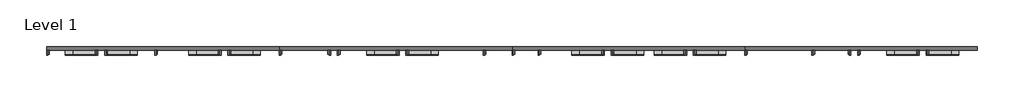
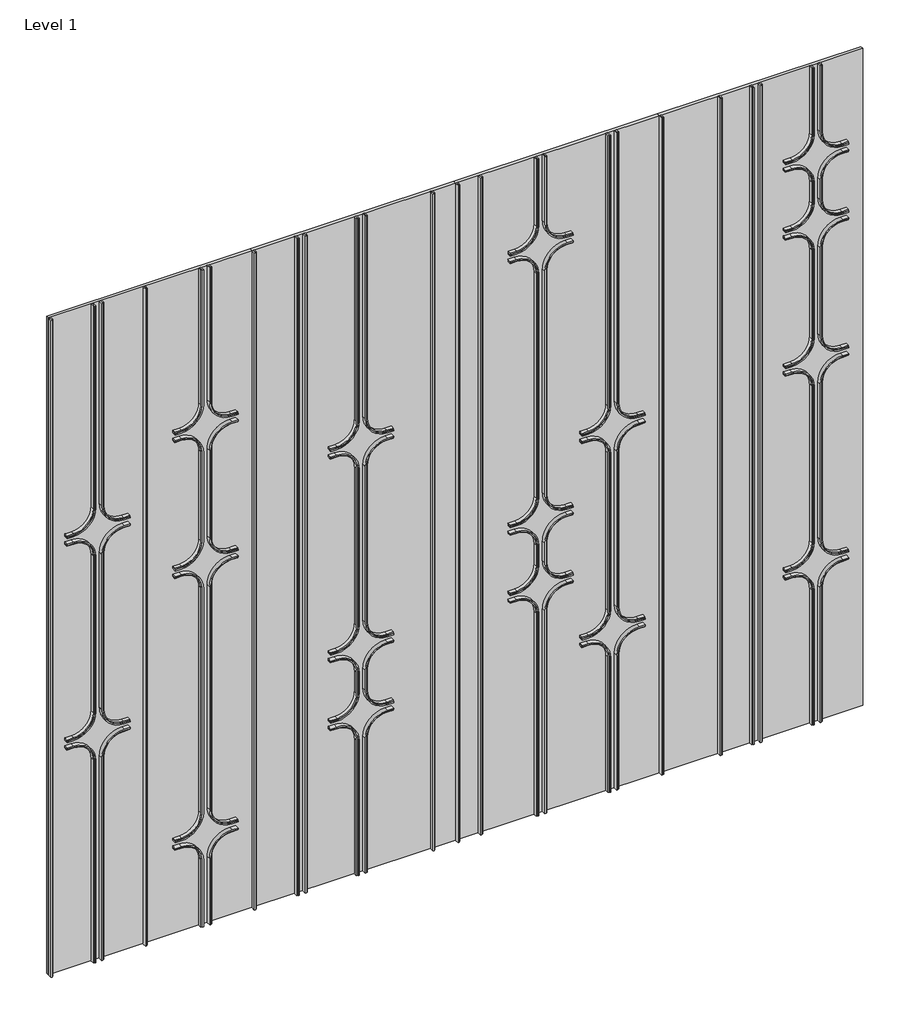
# One storey: 4 proxies.
"""IFC4 building model written with IfcOpenShell, lengths in millimetres."""

from ifc_helpers import new_model, si_unit, origin, place, context, project, spatial, transform, mapped, element, save
from components import specialty_equipment_f4d17212, specialty_equipment_31ee1de0, specialty_equipment_a84f635a, specialty_equipment_9bc6d3fd

model = new_model("IFC4")

# Units and contexts
model_context = context("Model", 3, world=origin())
ifc_project = project(units=[si_unit("LENGTHUNIT", "METRE", prefix="MILLI")], contexts=[model_context])

# Site, building, storey
site = spatial("IfcSite", under=ifc_project)
building = spatial("IfcBuilding", under=site)
storey = spatial("IfcBuildingStorey", under=building, Name="Level 1", Elevation=0.0)

# Proxies
placement = place(None, origin())
specialty_equipment_shape = specialty_equipment_f4d17212(model_context)
element("IfcBuildingElementProxy", 1, Name="FilzFelt_Ion : Ion A", ObjectType="FilzFelt_Ion : Ion A", at=placement, inside=storey, context=model_context, shape_type="MappedRepresentation", body=[
    mapped(specialty_equipment_shape, transform((-10475.1569951, -526.6343842, 0.0), x_axis=(1.0, 0.0, 0.0), y_axis=(0.0, 0.0, 1.0), z_axis=(0.0, -1.0, 0.0))),
])
specialty_equipment_2_shape = specialty_equipment_31ee1de0(model_context)
element("IfcBuildingElementProxy", 2, Name="FilzFelt_Ion : Ion B", ObjectType="FilzFelt_Ion : Ion B", at=placement, inside=storey, context=model_context, shape_type="MappedRepresentation", body=[
    mapped(specialty_equipment_2_shape, transform((-9611.5569951, -526.6343842, 0.0), x_axis=(1.0, 0.0, 0.0), y_axis=(0.0, 0.0, 1.0), z_axis=(0.0, -1.0, 0.0))),
])
specialty_equipment_3_shape = specialty_equipment_a84f635a(model_context)
element("IfcBuildingElementProxy", 3, Name="FilzFelt_Ion : Ion C", ObjectType="FilzFelt_Ion : Ion C", at=placement, inside=storey, context=model_context, shape_type="MappedRepresentation", body=[
    mapped(specialty_equipment_3_shape, transform((-8747.9569951, -526.6343842, 0.0), x_axis=(1.0, 0.0, 0.0), y_axis=(0.0, 0.0, 1.0), z_axis=(0.0, -1.0, 0.0))),
])
specialty_equipment_4_shape = specialty_equipment_9bc6d3fd(model_context)
element("IfcBuildingElementProxy", 4, Name="FilzFelt_Ion : Ion D", ObjectType="FilzFelt_Ion : Ion D", at=placement, inside=storey, context=model_context, shape_type="MappedRepresentation", body=[
    mapped(specialty_equipment_4_shape, transform((-7884.3569951, -526.6343842, 0.0), x_axis=(1.0, 0.0, 0.0), y_axis=(0.0, 0.0, 1.0), z_axis=(0.0, -1.0, 0.0))),
])

save(model, "model.ifc")
